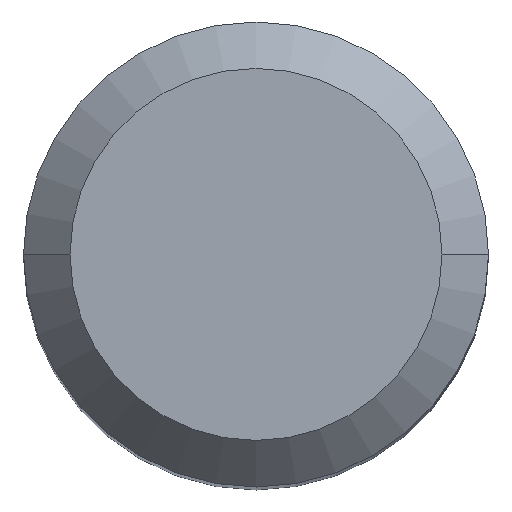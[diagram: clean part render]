
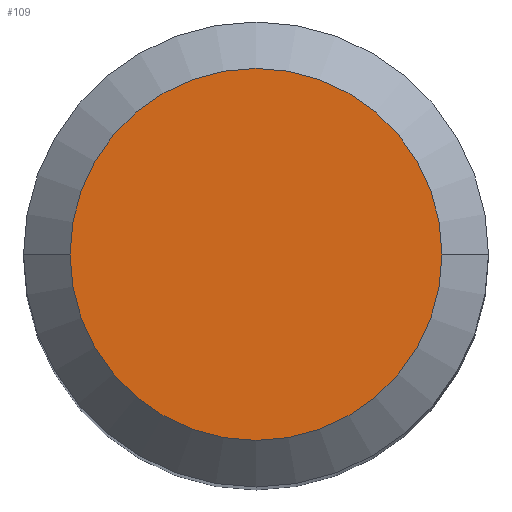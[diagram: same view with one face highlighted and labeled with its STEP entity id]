
A CAD part, top view. The second image highlights one B-rep face of the part: STEP entity #109.
In plain terms, the highlighted planar face has unit normal (0, 0, 1).
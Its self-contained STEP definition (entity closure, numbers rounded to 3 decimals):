
#5 = VERTEX_POINT ( 'NONE', #164 ) ;
#10 = DIRECTION ( 'NONE',  ( 0., 0., 1. ) ) ;
#11 = EDGE_CURVE ( 'NONE', #5, #205, #107, .T. ) ;
#59 = EDGE_CURVE ( 'NONE', #205, #5, #435, .T. ) ;
#80 = DIRECTION ( 'NONE',  ( -1., 0., 0. ) ) ;
#83 = DIRECTION ( 'NONE',  ( -1., 0., 0. ) ) ;
#107 = CIRCLE ( 'NONE', #509, 4.8 ) ;
#109 = ADVANCED_FACE ( 'NONE', ( #391 ), #345, .T. ) ;
#138 = DIRECTION ( 'NONE',  ( 1., 0., 0. ) ) ;
#160 = DIRECTION ( 'NONE',  ( 0., 0., -1. ) ) ;
#164 = CARTESIAN_POINT ( 'NONE',  ( -4.8, 0., 0. ) ) ;
#205 = VERTEX_POINT ( 'NONE', #517 ) ;
#252 = CARTESIAN_POINT ( 'NONE',  ( 0., 0., 0. ) ) ;
#292 = ORIENTED_EDGE ( 'NONE', *, *, #11, .F. ) ;
#303 = AXIS2_PLACEMENT_3D ( 'NONE', #525, #10, #138 ) ;
#332 = EDGE_LOOP ( 'NONE', ( #292, #374 ) ) ;
#345 = PLANE ( 'NONE',  #303 ) ;
#374 = ORIENTED_EDGE ( 'NONE', *, *, #59, .F. ) ;
#380 = DIRECTION ( 'NONE',  ( 0., 0., -1. ) ) ;
#391 = FACE_OUTER_BOUND ( 'NONE', #332, .T. ) ;
#421 = CARTESIAN_POINT ( 'NONE',  ( 0., 0., 0. ) ) ;
#435 = CIRCLE ( 'NONE', #493, 4.8 ) ;
#493 = AXIS2_PLACEMENT_3D ( 'NONE', #421, #160, #83 ) ;
#509 = AXIS2_PLACEMENT_3D ( 'NONE', #252, #380, #80 ) ;
#517 = CARTESIAN_POINT ( 'NONE',  ( 4.8, 0., 0. ) ) ;
#525 = CARTESIAN_POINT ( 'NONE',  ( 0., 4.8, 0. ) ) ;
